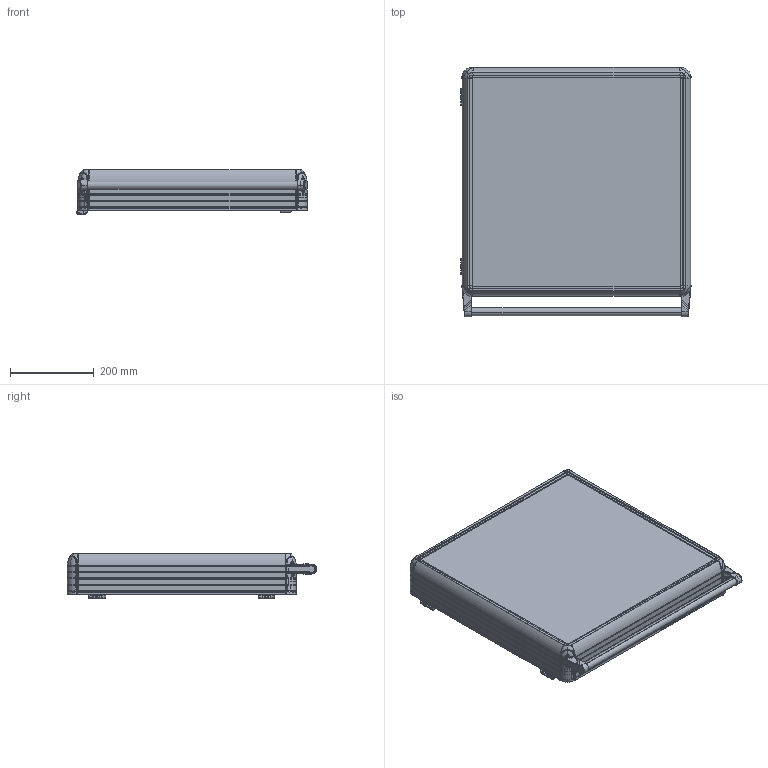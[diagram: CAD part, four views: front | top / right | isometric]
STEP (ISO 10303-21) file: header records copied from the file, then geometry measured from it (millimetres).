
FILE_DESCRIPTION (( 'STEP AP214' ), '1' );
FILE_NAME ('9000-0112.STEP', '2022-09-01T06:25:11', ( '' ), ( '' ), 'SwSTEP 2.0', 'SolidWorks 2022', '' );
FILE_SCHEMA (( 'AUTOMOTIVE_DESIGN' ));
Length unit declared in the file: millimetre
Products named in the file (8): ARKA_KAPAK_500X500; boru_525; HPECO-090-001-295_494; ECO9000-0100(SOL); 500X500; 9000-0112; ECO9000-0000; ECO9000-0100(SAÐ)
Assembly tree (11 placements, depth 2):
  9000-0112
    500X500
    ARKA_KAPAK_500X500
    HPECO-090-001-295_494  x4
    ECO9000-0100(SAÐ)
    ECO9000-0100(SOL)
    ECO9000-0000  x2
    boru_525
Bounding box: 549.03 x 595.78 x 109.16 mm (x, y, z)
Volume: 4274557 mm3; surface area: 1866824.7 mm2
Topology: 19 solids, 70 shells, 6213 faces, 16511 edges, 10141 vertices
Faces by surface type: plane 2488, cylinder 1664, bspline 1133, cone 578, torus 300, sphere 50
Entity records: 239087 total; most frequent: CARTESIAN_POINT 66791, ORIENTED_EDGE 27164, DIRECTION 21989, EDGE_CURVE 13582, VERTEX_POINT 8420, AXIS2_PLACEMENT_3D 7969, LINE 6051, VECTOR 6051
